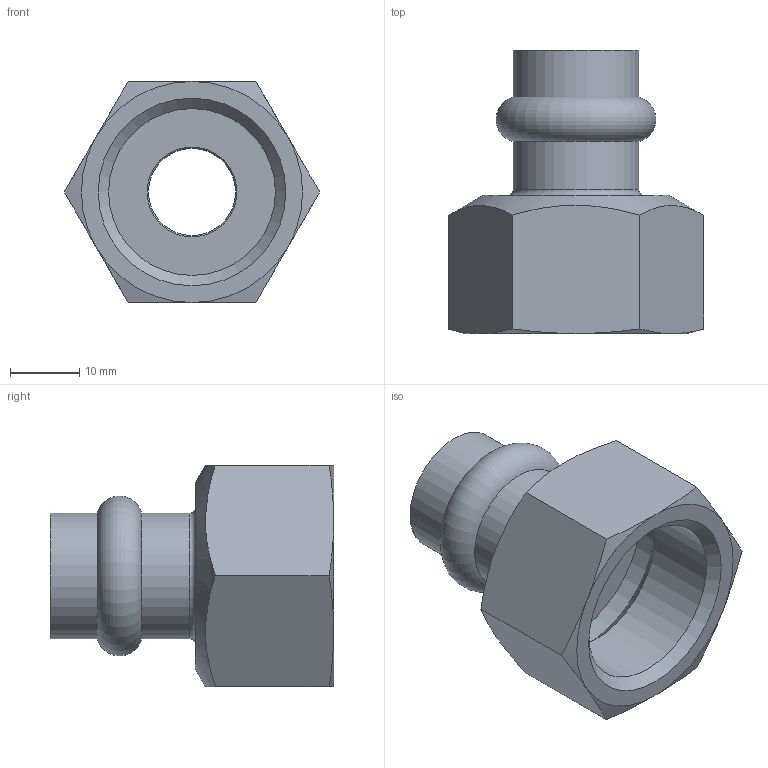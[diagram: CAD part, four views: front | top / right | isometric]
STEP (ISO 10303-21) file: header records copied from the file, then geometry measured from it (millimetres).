
FILE_DESCRIPTION(/* description */ (''),/* implementation_level */ '2;1');
FILE_NAME(/* name */ 'C:\Users\Vault\Desktop\Articoli_INOXPRES UNIKO\190_INOXPRES_UNIKO\190304015U_Inoxpres_Uniko.stp',/* time_stamp */ '2022-10-06T11:36:17+02:00',/* author */ ('Vault'),/* organization */ ('Raccorderie metalliche s.p.a. '),/* preprocessor_version */ 'ST-DEVELOPER v18.1',/* originating_system */ 'Autodesk Inventor 2020',/* authorisation */ 'Raccorderie metalliche s.p.a. ');
FILE_SCHEMA (('AUTOMOTIVE_DESIGN { 1 0 10303 214 3 1 1 }'));
Length unit declared in the file: millimetre
Products named in the file (1): 190304015V_Inoxpres_Uniko
Bounding box: 36.95 x 41 x 32 mm (x, y, z)
Volume: 10863.7 mm3; surface area: 7573.5 mm2
Topology: 1 solids, 1 shells, 35 faces, 88 edges, 58 vertices
Faces by surface type: cone 13, plane 11, cylinder 7, torus 4
Full cylindrical faces by diameter (mm): 12.6 x1, 15.2 x2, 18.2 x2, 24.12 x1, 28 x1
Entity records: 1101 total; most frequent: CARTESIAN_POINT 220, DIRECTION 190, ORIENTED_EDGE 176, EDGE_CURVE 88, AXIS2_PLACEMENT_3D 85, VERTEX_POINT 58, CIRCLE 49, EDGE_LOOP 40
